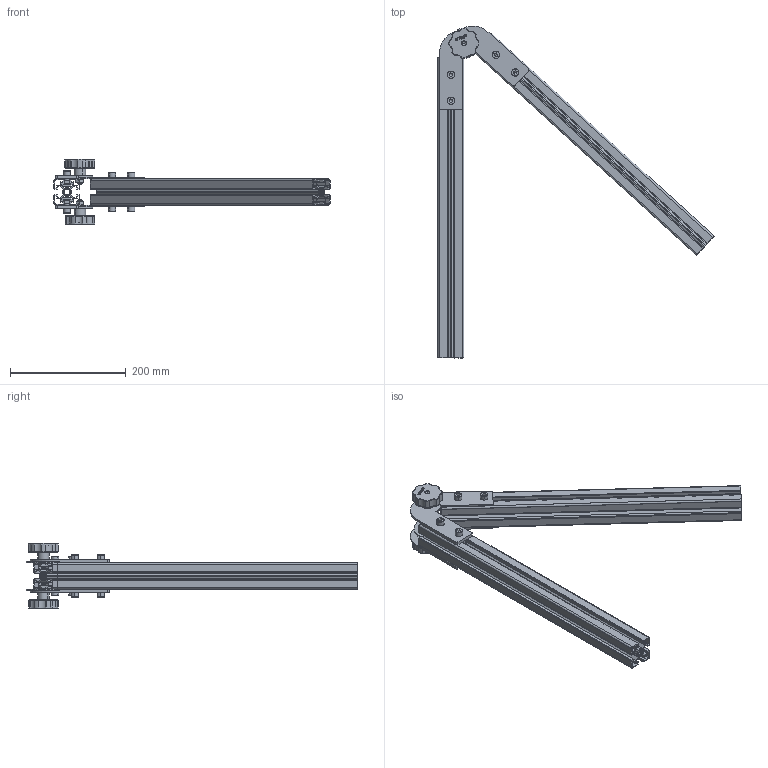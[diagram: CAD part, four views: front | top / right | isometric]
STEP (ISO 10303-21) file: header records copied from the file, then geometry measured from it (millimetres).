
FILE_DESCRIPTION (( 'STEP AP214' ), '1' );
FILE_NAME ('4545180.STEP', '2021-04-08T12:36:14', ( 'Home' ), ( '' ), 'SwSTEP 2.0', 'SolidWorks 2020', '' );
FILE_SCHEMA (( 'AUTOMOTIVE_DESIGN' ));
Length unit declared in the file: millimetre
Products named in the file (11): 4545180; Âèíò ñ âíóòðåííèì øåñòèãðàííèêîì ISO 4762_Œ8å16; D50M8H15; 4545180_2; OB-4545L-ÂÐ Ïðîôèëü 45õ45 ìì. Ïàç 10 ìì (Áåç ïîêðûòèÿ)_L=520 ¬¬; Part 1; 5074; 4545180_1; Ãàéêà ÃÎÑÒ5927-70_M8; Part 2
Assembly tree (28 placements, depth 3):
  4545180
    4545180_2
    4545180_1
    4545180  x2
    OB-4545L-ÂÐ Ïðîôèëü 45õ45 ìì. Ïàç 10 ìì (Áåç ïîêðûòèÿ)_L=520 ¬¬  x2
    Ãàéêà ÃÎÑÒ5927-70_M8  x2
    Âèíò ñ âíóòðåííèì øåñòèãðàííèêîì ISO 4762_Œ8å16  x8
    D50M8H15  x2
      Part 1
      Part 2
    5074  x8
Bounding box: 477.75 x 574.53 x 113.2 mm (x, y, z)
Volume: 745139.3 mm3; surface area: 749518.1 mm2
Topology: 28 solids, 28 shells, 2760 faces, 6948 edges, 4230 vertices
Faces by surface type: plane 1186, cylinder 740, bspline 400, torus 188, sphere 160, cone 86
Entity records: 34273 total; most frequent: CARTESIAN_POINT 14098, ORIENTED_EDGE 3818, DIRECTION 3455, EDGE_CURVE 1909, VERTEX_POINT 1215, AXIS2_PLACEMENT_3D 1187, VECTOR 1081, LINE 1081
